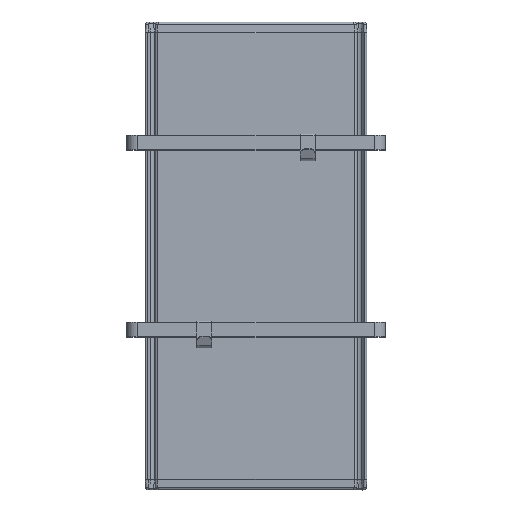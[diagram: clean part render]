
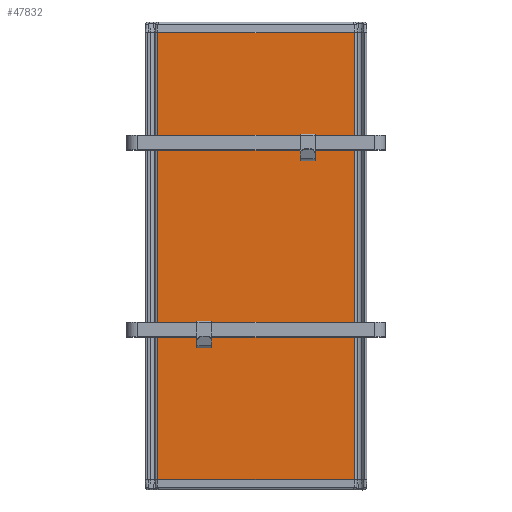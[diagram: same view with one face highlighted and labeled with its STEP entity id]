
A CAD part, top view. The second image highlights one B-rep face of the part: STEP entity #47832.
In plain terms, the highlighted planar face has unit normal (0, 0, 1).
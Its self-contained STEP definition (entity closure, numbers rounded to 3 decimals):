
#47527 = EDGE_CURVE('',#47528,#47530,#47532,.T.);
#47528 = VERTEX_POINT('',#47529);
#47529 = CARTESIAN_POINT('',(200.,-452.972,51.));
#47530 = VERTEX_POINT('',#47531);
#47531 = CARTESIAN_POINT('',(200.,452.972,51.));
#47532 = LINE('',#47533,#47534);
#47533 = CARTESIAN_POINT('',(200.,-452.972,51.));
#47534 = VECTOR('',#47535,1.);
#47535 = DIRECTION('',(0.,1.,0.));
#47594 = EDGE_CURVE('',#47595,#47530,#47597,.T.);
#47595 = VERTEX_POINT('',#47596);
#47596 = CARTESIAN_POINT('',(-200.,452.972,51.));
#47597 = LINE('',#47598,#47599);
#47598 = CARTESIAN_POINT('',(-200.,452.972,51.));
#47599 = VECTOR('',#47600,1.);
#47600 = DIRECTION('',(1.,0.,0.));
#47813 = VERTEX_POINT('',#47814);
#47814 = CARTESIAN_POINT('',(-200.,-452.972,51.));
#47821 = EDGE_CURVE('',#47813,#47595,#47822,.T.);
#47822 = LINE('',#47823,#47824);
#47823 = CARTESIAN_POINT('',(-200.,-452.972,51.));
#47824 = VECTOR('',#47825,1.);
#47825 = DIRECTION('',(0.,1.,0.));
#47832 = ADVANCED_FACE('',(#47833),#47844,.T.);
#47833 = FACE_BOUND('',#47834,.F.);
#47834 = EDGE_LOOP('',(#47835,#47836,#47837,#47843));
#47835 = ORIENTED_EDGE('',*,*,#47594,.T.);
#47836 = ORIENTED_EDGE('',*,*,#47527,.F.);
#47837 = ORIENTED_EDGE('',*,*,#47838,.T.);
#47838 = EDGE_CURVE('',#47528,#47813,#47839,.T.);
#47839 = LINE('',#47840,#47841);
#47840 = CARTESIAN_POINT('',(200.,-452.972,51.));
#47841 = VECTOR('',#47842,1.);
#47842 = DIRECTION('',(-1.,0.,0.));
#47843 = ORIENTED_EDGE('',*,*,#47821,.T.);
#47844 = PLANE('',#47845);
#47845 = AXIS2_PLACEMENT_3D('',#47846,#47847,#47848);
#47846 = CARTESIAN_POINT('',(-200.,-454.25,51.));
#47847 = DIRECTION('',(0.,0.,1.));
#47848 = DIRECTION('',(1.,0.,-0.));
